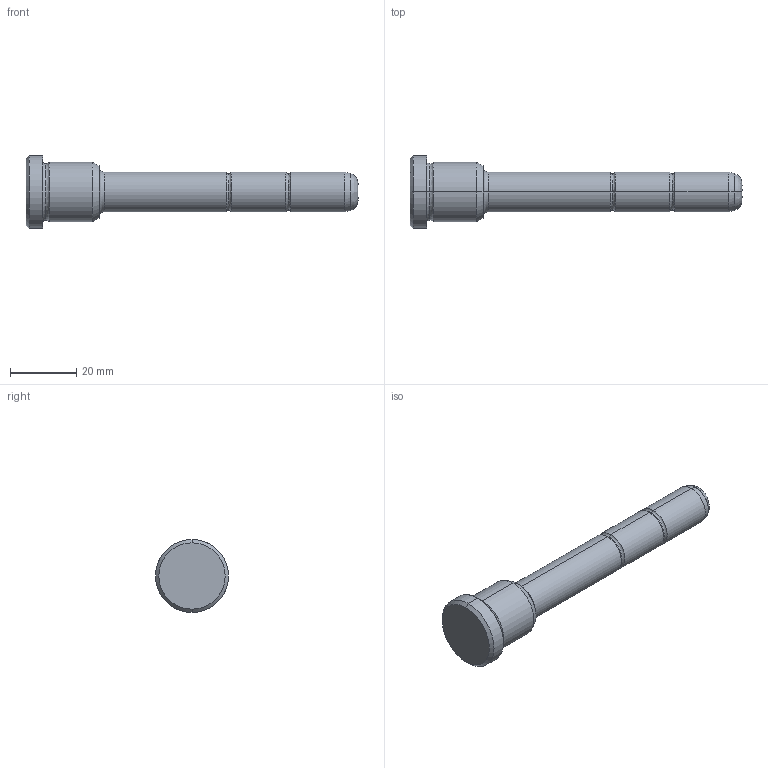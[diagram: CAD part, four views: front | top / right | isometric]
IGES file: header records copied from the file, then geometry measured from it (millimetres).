
Start section: START RECORD GO HERE.
Global section: file name: 351-12X22X100.igs; native system: DASSAULT SYSTEMES CATIA V5 R20 - www.3ds.com; preprocessor: CATIA Version 5 Release 20 ; author: Utente; organization: NB04-ASUS; date: 20210817.134554; units: millimetre
Bounding box: 100 x 22 x 22 mm (x, y, z)
Surface area: 4860.2 mm2 (no closed solid volume)
Topology: 0 solids, 0 shells, 36 faces, 204 edges, 204 vertices
Faces by surface type: revolution 30, plane 4, bspline 2
